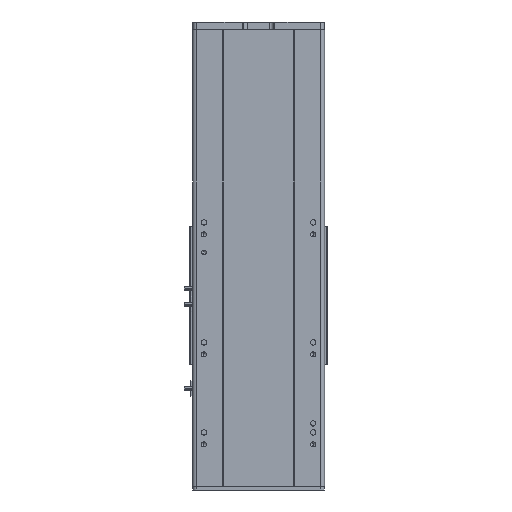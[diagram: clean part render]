
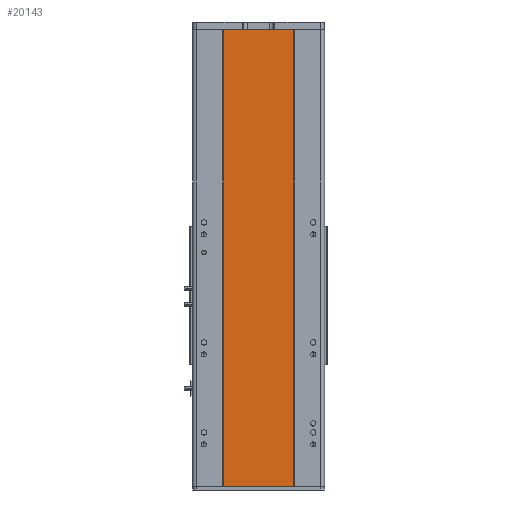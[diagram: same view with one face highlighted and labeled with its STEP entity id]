
A CAD part, front view. The second image highlights one B-rep face of the part: STEP entity #20143.
In plain terms, the highlighted planar face has unit normal (0, -1, 0).
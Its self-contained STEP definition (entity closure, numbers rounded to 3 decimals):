
#4339 = VERTEX_POINT ( 'NONE', #17450 ) ;
#4435 = CARTESIAN_POINT ( 'NONE',  ( -59., 1., -380.5 ) ) ;
#4977 = ORIENTED_EDGE ( 'NONE', *, *, #33245, .F. ) ;
#7057 = EDGE_LOOP ( 'NONE', ( #33000, #4977, #14317, #8507 ) ) ;
#8304 = DIRECTION ( 'NONE',  ( 0., 0., -1. ) ) ;
#8507 = ORIENTED_EDGE ( 'NONE', *, *, #31057, .T. ) ;
#8650 = VECTOR ( 'NONE', #8304, 1000. ) ;
#9793 = DIRECTION ( 'NONE',  ( 1., 0., 0. ) ) ;
#10547 = LINE ( 'NONE', #13610, #12686 ) ;
#10570 = VERTEX_POINT ( 'NONE', #32551 ) ;
#10908 = CARTESIAN_POINT ( 'NONE',  ( -59., 1., 380.5 ) ) ;
#11763 = LINE ( 'NONE', #4435, #18205 ) ;
#12686 = VECTOR ( 'NONE', #35688, 1000. ) ;
#12768 = AXIS2_PLACEMENT_3D ( 'NONE', #31262, #25473, #17485 ) ;
#13610 = CARTESIAN_POINT ( 'NONE',  ( -59., 1., 380.5 ) ) ;
#14317 = ORIENTED_EDGE ( 'NONE', *, *, #25051, .F. ) ;
#16466 = VERTEX_POINT ( 'NONE', #22201 ) ;
#16727 = FACE_OUTER_BOUND ( 'NONE', #7057, .T. ) ;
#17450 = CARTESIAN_POINT ( 'NONE',  ( -59., 1., -380.5 ) ) ;
#17485 = DIRECTION ( 'NONE',  ( -1., 0., 0. ) ) ;
#17658 = LINE ( 'NONE', #10908, #28891 ) ;
#18205 = VECTOR ( 'NONE', #9793, 1000. ) ;
#19899 = PLANE ( 'NONE',  #12768 ) ;
#20143 = ADVANCED_FACE ( 'NONE', ( #16727 ), #19899, .F. ) ;
#20298 = LINE ( 'NONE', #24705, #8650 ) ;
#22201 = CARTESIAN_POINT ( 'NONE',  ( -59., 1., 380.5 ) ) ;
#23469 = EDGE_CURVE ( 'NONE', #4339, #10570, #11763, .T. ) ;
#24705 = CARTESIAN_POINT ( 'NONE',  ( 59., 1., 380.5 ) ) ;
#25051 = EDGE_CURVE ( 'NONE', #16466, #35423, #17658, .T. ) ;
#25473 = DIRECTION ( 'NONE',  ( 0., 1., 0. ) ) ;
#27034 = CARTESIAN_POINT ( 'NONE',  ( 59., 1., 380.5 ) ) ;
#28891 = VECTOR ( 'NONE', #29748, 1000. ) ;
#29748 = DIRECTION ( 'NONE',  ( 1., 0., 0. ) ) ;
#31057 = EDGE_CURVE ( 'NONE', #16466, #4339, #10547, .T. ) ;
#31262 = CARTESIAN_POINT ( 'NONE',  ( -59., 1., 380.5 ) ) ;
#32551 = CARTESIAN_POINT ( 'NONE',  ( 59., 1., -380.5 ) ) ;
#33000 = ORIENTED_EDGE ( 'NONE', *, *, #23469, .T. ) ;
#33245 = EDGE_CURVE ( 'NONE', #35423, #10570, #20298, .T. ) ;
#35423 = VERTEX_POINT ( 'NONE', #27034 ) ;
#35688 = DIRECTION ( 'NONE',  ( 0., 0., -1. ) ) ;
